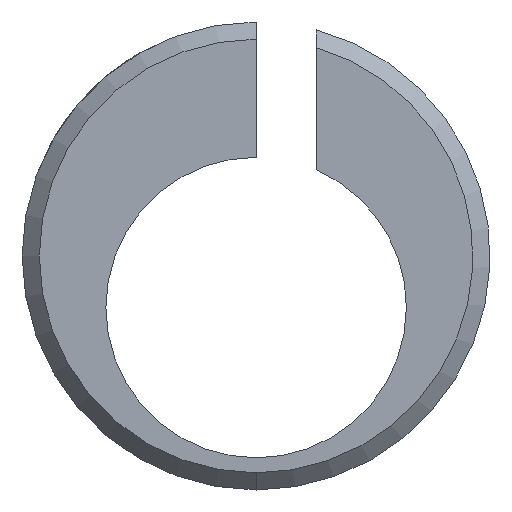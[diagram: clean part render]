
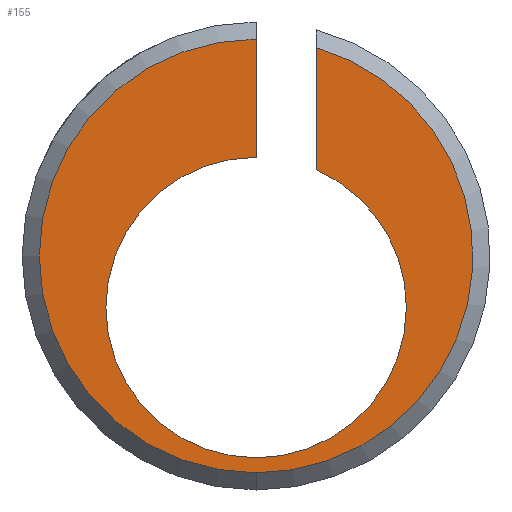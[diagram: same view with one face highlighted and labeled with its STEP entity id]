
A CAD part, front view. The second image highlights one B-rep face of the part: STEP entity #155.
In plain terms, the highlighted planar face has unit normal (0, -1, 0).
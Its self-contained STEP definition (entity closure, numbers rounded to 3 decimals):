
#64=PLANE('',#1685);
#155=ADVANCED_FACE('',(#224),#64,.T.);
#224=FACE_OUTER_BOUND('',#297,.F.);
#297=EDGE_LOOP('',(#402,#403,#404,#405,#406,#407,#408));
#402=ORIENTED_EDGE('',*,*,#1340,.F.);
#403=ORIENTED_EDGE('',*,*,#1338,.F.);
#404=ORIENTED_EDGE('',*,*,#1334,.T.);
#405=ORIENTED_EDGE('',*,*,#1317,.T.);
#406=ORIENTED_EDGE('',*,*,#1365,.T.);
#407=ORIENTED_EDGE('',*,*,#1363,.T.);
#408=ORIENTED_EDGE('',*,*,#1332,.T.);
#1176=LINE('',#2235,#1239);
#1178=LINE('',#2237,#1241);
#1239=VECTOR('',#1813,14.221);
#1241=VECTOR('',#1815,13.75);
#1317=EDGE_CURVE('',#1605,#1604,#1472,.T.);
#1332=EDGE_CURVE('',#1589,#1600,#1176,.T.);
#1334=EDGE_CURVE('',#1587,#1605,#1178,.T.);
#1338=EDGE_CURVE('',#1587,#1582,#1483,.T.);
#1340=EDGE_CURVE('',#1582,#1600,#1485,.T.);
#1363=EDGE_CURVE('',#1562,#1589,#1491,.T.);
#1365=EDGE_CURVE('',#1604,#1562,#1493,.T.);
#1472=CIRCLE('',#1640,17.5);
#1483=CIRCLE('',#1651,25.25);
#1485=CIRCLE('',#1653,25.25);
#1491=CIRCLE('',#1659,17.5);
#1493=CIRCLE('',#1661,17.5);
#1562=VERTEX_POINT('',#2166);
#1582=VERTEX_POINT('',#2186);
#1587=VERTEX_POINT('',#2191);
#1589=VERTEX_POINT('',#2193);
#1600=VERTEX_POINT('',#2204);
#1604=VERTEX_POINT('',#2208);
#1605=VERTEX_POINT('',#2209);
#1640=AXIS2_PLACEMENT_3D('',#2210,#1790,#1791);
#1651=AXIS2_PLACEMENT_3D('',#2241,#1820,#1821);
#1653=AXIS2_PLACEMENT_3D('',#2243,#1824,#1825);
#1659=AXIS2_PLACEMENT_3D('',#2450,#1837,#1838);
#1661=AXIS2_PLACEMENT_3D('',#2452,#1841,#1842);
#1685=AXIS2_PLACEMENT_3D('',#2506,#1919,#1920);
#1790=DIRECTION('',(0.,-1.,0.));
#1791=DIRECTION('',(0.,0.,1.));
#1813=DIRECTION('',(0.,0.,1.));
#1815=DIRECTION('',(0.,0.,-1.));
#1820=DIRECTION('',(0.,-1.,0.));
#1821=DIRECTION('',(0.,0.,1.));
#1824=DIRECTION('',(0.,-1.,0.));
#1825=DIRECTION('',(0.,0.,-1.));
#1837=DIRECTION('',(0.,-1.,0.));
#1838=DIRECTION('',(1.,0.,0.));
#1841=DIRECTION('',(0.,-1.,0.));
#1842=DIRECTION('',(-1.,0.,0.));
#1919=DIRECTION('',(0.,-1.,0.));
#1920=DIRECTION('',(1.,0.,0.));
#2166=CARTESIAN_POINT('',(-169.707,-1372.133,6737.084));
#2186=CARTESIAN_POINT('',(-187.207,-1372.133,6717.834));
#2191=CARTESIAN_POINT('',(-187.207,-1372.133,6768.334));
#2193=CARTESIAN_POINT('',(-180.207,-1372.133,6753.123));
#2204=CARTESIAN_POINT('',(-180.207,-1372.133,6767.344));
#2208=CARTESIAN_POINT('',(-204.707,-1372.133,6737.084));
#2209=CARTESIAN_POINT('',(-187.207,-1372.133,6754.584));
#2210=CARTESIAN_POINT('',(-187.207,-1372.133,6737.084));
#2235=CARTESIAN_POINT('',(-180.207,-1372.133,6753.123));
#2237=CARTESIAN_POINT('',(-187.207,-1372.133,6768.334));
#2241=CARTESIAN_POINT('',(-187.207,-1372.133,6743.084));
#2243=CARTESIAN_POINT('',(-187.207,-1372.133,6743.084));
#2450=CARTESIAN_POINT('',(-187.207,-1372.133,6737.084));
#2452=CARTESIAN_POINT('',(-187.207,-1372.133,6737.084));
#2506=CARTESIAN_POINT('',(-214.457,-1372.133,6715.834));
